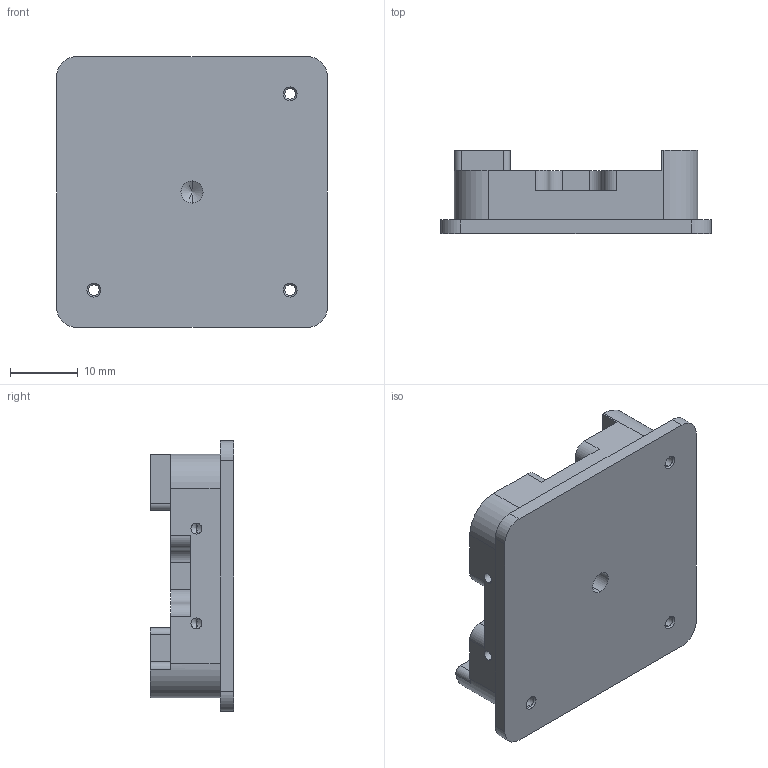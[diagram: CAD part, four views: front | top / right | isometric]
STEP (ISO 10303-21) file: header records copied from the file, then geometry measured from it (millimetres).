
FILE_DESCRIPTION (( 'STEP AP214' ), '1' );
FILE_NAME ('小型30 mm笼式立方底座.STEP', '2026-07-16T06:18:30', ( '' ), ( '' ), 'SwSTEP 2.0', 'SolidWorks 2024', '' );
FILE_SCHEMA (( 'AUTOMOTIVE_DESIGN' ));
Length unit declared in the file: millimetre
Products named in the file (1): 小型30 mm笼式立方底座
Bounding box: 40 x 12.3 x 40 mm (x, y, z)
Volume: 12020 mm3; surface area: 5178 mm2
Topology: 1 solids, 1 shells, 101 faces, 278 edges, 175 vertices
Faces by surface type: cylinder 49, plane 36, cone 16
Entity records: 3195 total; most frequent: DIRECTION 578, CARTESIAN_POINT 545, ORIENTED_EDGE 536, EDGE_CURVE 268, AXIS2_PLACEMENT_3D 208, VERTEX_POINT 175, VECTOR 162, LINE 162
